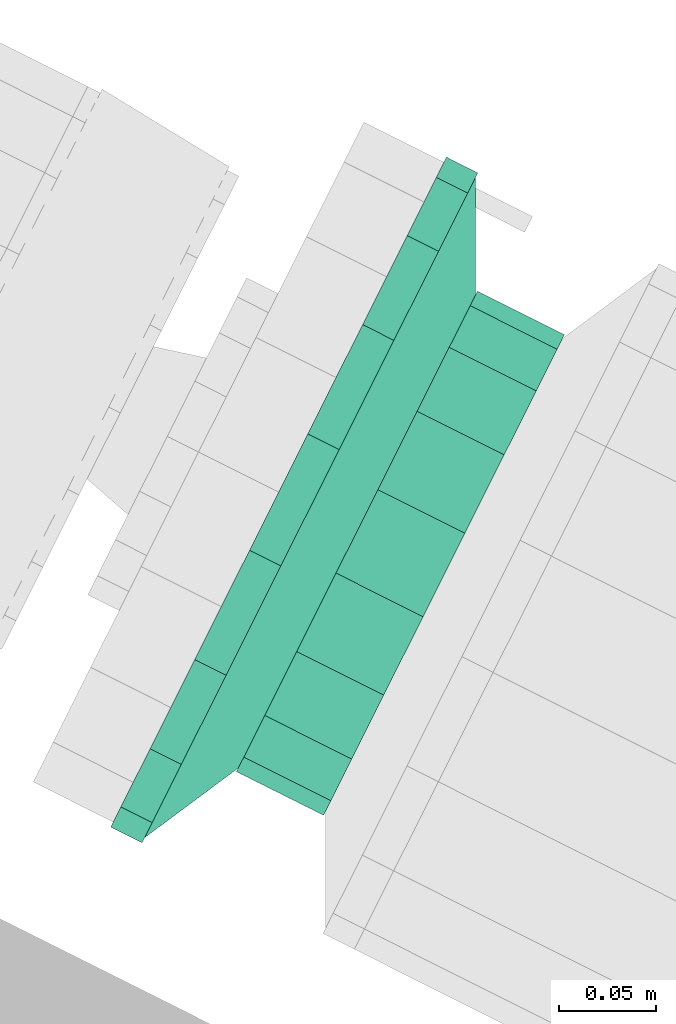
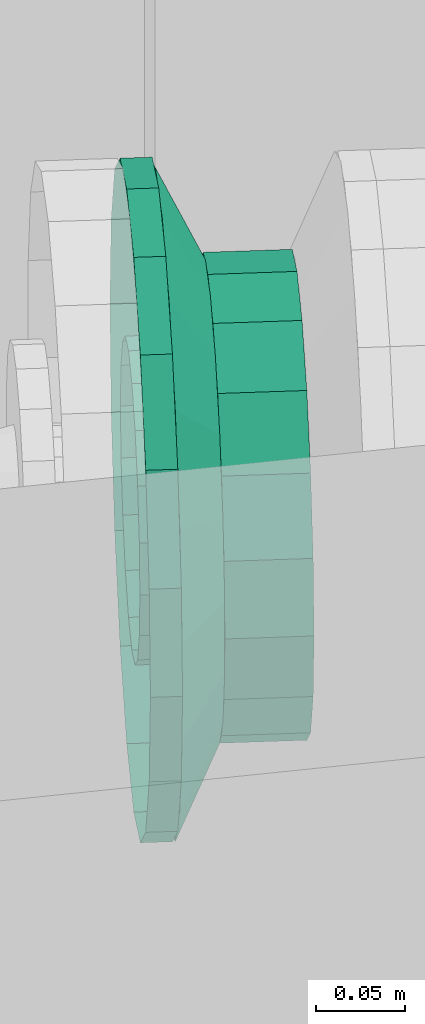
# One storey, part 153 of 206: 1 flow fitting, 1 flow segment.
"""IFC2X3 building model written with IfcOpenShell, lengths in metres."""

from ifc_helpers import new_model, si_unit, derived_unit, direction, frame, origin, place, context, subcontext, project, spatial, face_set, surface_model, source, transform, mapped, material, type_object, type_shapes, element, save


model = new_model("IFC2X3")

# Units and contexts
model_context = context("Model", 3, precision=5.2338327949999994e-05, world=origin(), true_north=direction((0.0, 1.0)))
body_context = subcontext(model_context, "Body", "Model", "MODEL_VIEW")
ifc_project = project(units=[si_unit("LENGTHUNIT", "METRE"), si_unit("AREAUNIT", "SQUARE_METRE"), si_unit("VOLUMEUNIT", "CUBIC_METRE"), si_unit("MASSUNIT", "GRAM", prefix="KILO"), si_unit("PLANEANGLEUNIT", "RADIAN"), derived_unit("THERMALTRANSMITTANCEUNIT", [(si_unit("MASSUNIT", "GRAM", prefix="KILO"), 1), (si_unit("THERMODYNAMICTEMPERATUREUNIT", "KELVIN"), -1), (si_unit("TIMEUNIT", "SECOND"), -3)])], contexts=[model_context])

# Site, building, storey
site_placement = place(None, frame((0.0, 0.0, 0.0), z_axis=(0.0, 0.0, 1.0), x_axis=(0.8939966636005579, -0.4480736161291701, 0.0)))
site = spatial("IfcSite", under=ifc_project, at=site_placement, Name="Default", CompositionType="ELEMENT")
building_placement = place(site_placement, origin())
building = spatial("IfcBuilding", under=site, at=building_placement, CompositionType="ELEMENT")
storey_placement = place(building_placement, origin())
storey = spatial("IfcBuildingStorey", under=building, at=storey_placement, Name="Erdgeschoss", CompositionType="ELEMENT", Elevation=0.0)

# Flow fitting
ifc_material = material(Name="IfcSurfaceStyle #1741")
distribution_element_type_1 = type_object("IfcDistributionElementType", Name="Flansch 336070:Flansch 336070", material=ifc_material)
shared_shape_1 = source(origin(), body_context, "Body", "SurfaceModel", [
    surface_model("IfcFaceBasedSurfaceModel", [(29.100127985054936, 10.310708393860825, 2.314000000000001), (29.100127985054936, 10.316286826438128, 2.282363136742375), (29.118127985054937, 10.316286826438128, 2.282363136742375), (29.118127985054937, 10.310708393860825, 2.314000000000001), (29.100127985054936, 10.332349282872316, 2.254542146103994), (29.118127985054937, 10.332349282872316, 2.254542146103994), (29.100127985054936, 10.356958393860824, 2.2338926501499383), (29.118127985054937, 10.356958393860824, 2.2338926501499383), (29.100127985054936, 10.387145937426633, 2.222905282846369), (29.118127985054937, 10.387145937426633, 2.222905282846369), (29.100127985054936, 10.41927085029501, 2.2229052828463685), (29.118127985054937, 10.41927085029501, 2.2229052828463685), (29.100127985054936, 10.449458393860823, 2.233892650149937), (29.118127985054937, 10.449458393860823, 2.233892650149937), (29.100127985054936, 10.474067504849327, 2.2545421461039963), (29.118127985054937, 10.474067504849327, 2.2545421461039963), (29.100127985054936, 10.49012996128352, 2.2823631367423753), (29.118127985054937, 10.49012996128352, 2.2823631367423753), (29.100127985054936, 10.495708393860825, 2.313999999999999), (29.118127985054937, 10.495708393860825, 2.313999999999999), (29.100127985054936, 10.490129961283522, 2.3456368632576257), (29.118127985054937, 10.490129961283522, 2.3456368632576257), (29.100127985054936, 10.474067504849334, 2.3734578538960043), (29.118127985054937, 10.474067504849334, 2.3734578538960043), (29.100127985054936, 10.449458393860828, 2.3941073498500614), (29.118127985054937, 10.449458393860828, 2.3941073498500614), (29.100127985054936, 10.419270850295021, 2.4050947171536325), (29.118127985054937, 10.419270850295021, 2.4050947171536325), (29.100127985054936, 10.38714593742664, 2.4050947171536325), (29.118127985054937, 10.38714593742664, 2.4050947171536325), (29.100127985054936, 10.35695839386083, 2.394107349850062), (29.118127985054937, 10.35695839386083, 2.394107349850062), (29.100127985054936, 10.332349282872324, 2.373457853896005), (29.118127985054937, 10.332349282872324, 2.373457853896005), (29.100127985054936, 10.316286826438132, 2.3456368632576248), (29.118127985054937, 10.316286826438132, 2.3456368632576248), (29.118127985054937, 10.403208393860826, 2.314), (29.118127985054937, 10.403208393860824, 2.2689999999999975), (29.118127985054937, 10.418599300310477, 2.2717138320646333), (29.14512798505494, 10.416222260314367, 2.278244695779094), (29.14512798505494, 10.403208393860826, 2.275949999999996), (29.118127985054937, 10.432133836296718, 2.279528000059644), (29.14512798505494, 10.427666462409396, 2.284852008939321), (29.118127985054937, 10.442179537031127, 2.2915), (29.14512798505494, 10.436160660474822, 2.294975), (29.118127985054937, 10.44752474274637, 2.3061858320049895), (29.14512798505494, 10.44068032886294, 2.307392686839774), (29.118127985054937, 10.447524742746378, 2.321814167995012), (29.14512798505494, 10.440680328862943, 2.320607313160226), (29.118127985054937, 10.442179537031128, 2.336500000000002), (29.14512798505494, 10.436160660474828, 2.3330249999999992), (29.118127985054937, 10.432133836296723, 2.3484719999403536), (29.14512798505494, 10.427666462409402, 2.343147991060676), (29.118127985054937, 10.418599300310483, 2.356286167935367), (29.14512798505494, 10.416222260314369, 2.3497553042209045), (29.118127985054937, 10.403208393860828, 2.359), (29.14512798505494, 10.403208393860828, 2.352050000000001), (29.118127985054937, 10.387817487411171, 2.356286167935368), (29.14512798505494, 10.390194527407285, 2.3497553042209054), (29.118127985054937, 10.374282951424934, 2.3484719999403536), (29.14512798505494, 10.378750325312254, 2.343147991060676), (29.118127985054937, 10.364237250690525, 2.336500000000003), (29.14512798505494, 10.370256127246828, 2.333025), (29.118127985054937, 10.358892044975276, 2.3218141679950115), (29.14512798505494, 10.365736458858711, 2.3206073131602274), (29.118127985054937, 10.358892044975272, 2.306185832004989), (29.14512798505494, 10.365736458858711, 2.307392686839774), (29.118127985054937, 10.364237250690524, 2.291500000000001), (29.14512798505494, 10.370256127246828, 2.294975), (29.118127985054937, 10.374282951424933, 2.2795280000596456), (29.14512798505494, 10.378750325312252, 2.2848520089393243), (29.118127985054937, 10.387817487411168, 2.2717138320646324), (29.14512798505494, 10.390194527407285, 2.278244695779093), (29.100127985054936, 10.210708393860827, 2.3140000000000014), (29.100127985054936, 10.222317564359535, 2.248161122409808), (29.118127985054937, 10.222317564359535, 2.248161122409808), (29.118127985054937, 10.210708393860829, 2.314), (29.100127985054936, 10.25574483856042, 2.1902633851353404), (29.118127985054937, 10.25574483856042, 2.1902633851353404), (29.100127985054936, 10.306958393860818, 2.147290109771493), (29.118127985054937, 10.306958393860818, 2.147290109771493), (29.100127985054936, 10.369781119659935, 2.124424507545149), (29.118127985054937, 10.369781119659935, 2.124424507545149), (29.100127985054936, 10.436635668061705, 2.1244245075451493), (29.118127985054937, 10.436635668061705, 2.1244245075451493), (29.100127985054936, 10.49945839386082, 2.147290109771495), (29.118127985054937, 10.49945839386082, 2.147290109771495), (29.100127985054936, 10.550671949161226, 2.1902633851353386), (29.118127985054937, 10.550671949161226, 2.1902633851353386), (29.100127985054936, 10.58409922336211, 2.2481611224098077), (29.118127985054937, 10.58409922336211, 2.2481611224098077), (29.100127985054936, 10.595708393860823, 2.314), (29.118127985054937, 10.595708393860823, 2.314000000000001), (29.100127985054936, 10.584099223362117, 2.3798388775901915), (29.118127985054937, 10.584099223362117, 2.3798388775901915), (29.100127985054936, 10.55067194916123, 2.4377366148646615), (29.118127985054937, 10.55067194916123, 2.4377366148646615), (29.100127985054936, 10.499458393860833, 2.480709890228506), (29.118127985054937, 10.499458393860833, 2.480709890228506), (29.100127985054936, 10.436635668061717, 2.5035754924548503), (29.118127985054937, 10.436635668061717, 2.5035754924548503), (29.100127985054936, 10.369781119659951, 2.503575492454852), (29.118127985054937, 10.369781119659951, 2.503575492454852), (29.100127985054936, 10.30695839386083, 2.4807098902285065), (29.118127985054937, 10.30695839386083, 2.4807098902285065), (29.100127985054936, 10.255744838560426, 2.4377366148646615), (29.118127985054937, 10.255744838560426, 2.4377366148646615), (29.100127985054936, 10.222317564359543, 2.379838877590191), (29.118127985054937, 10.222317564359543, 2.379838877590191), (29.11812798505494, 10.403208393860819, 2.1214999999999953), (29.11812798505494, 10.46904727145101, 2.133109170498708), (29.145127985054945, 10.45042427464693, 2.1842754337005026), (29.145127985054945, 10.403208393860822, 2.175949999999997), (29.11812798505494, 10.526945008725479, 2.1665364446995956), (29.145127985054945, 10.49194522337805, 2.2082475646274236), (29.11812798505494, 10.569918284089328, 2.217749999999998), (29.145127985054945, 10.522763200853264, 2.244974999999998), (29.11812798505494, 10.592783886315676, 2.280572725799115), (29.145127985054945, 10.539161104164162, 2.2900278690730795), (29.11812798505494, 10.592783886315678, 2.3474272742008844), (29.145127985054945, 10.539161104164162, 2.3379721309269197), (29.11812798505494, 10.569918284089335, 2.4102499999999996), (29.145127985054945, 10.522763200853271, 2.383025), (29.11812798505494, 10.526945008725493, 2.4614635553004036), (29.145127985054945, 10.491945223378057, 2.419752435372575), (29.11812798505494, 10.469047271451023, 2.4948908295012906), (29.145127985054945, 10.450424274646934, 2.4437245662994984), (29.11812798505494, 10.403208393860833, 2.5065000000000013), (29.145127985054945, 10.403208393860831, 2.452050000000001), (29.11812798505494, 10.337369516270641, 2.49489082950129), (29.145127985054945, 10.35599251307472, 2.443724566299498), (29.11812798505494, 10.279471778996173, 2.4614635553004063), (29.145127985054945, 10.314471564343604, 2.4197524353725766), (29.11812798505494, 10.236498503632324, 2.4102500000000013), (29.145127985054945, 10.283653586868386, 2.3830250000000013), (29.11812798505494, 10.213632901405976, 2.347427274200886), (29.145127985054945, 10.26725568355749, 2.337972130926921), (29.11812798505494, 10.213632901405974, 2.2805727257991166), (29.145127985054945, 10.26725568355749, 2.290027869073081), (29.11812798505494, 10.236498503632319, 2.217749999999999), (29.145127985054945, 10.283653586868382, 2.244974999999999), (29.11812798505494, 10.279471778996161, 2.1665364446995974), (29.145127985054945, 10.314471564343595, 2.2082475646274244), (29.11812798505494, 10.337369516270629, 2.1331091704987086), (29.145127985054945, 10.35599251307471, 2.184275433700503)], [face_set([[[0, 1, 2, 3]], [[1, 4, 5, 2]], [[4, 6, 7, 5]], [[6, 8, 9, 7]], [[8, 10, 11, 9]], [[10, 12, 13, 11]], [[12, 14, 15, 13]], [[14, 16, 17, 15]], [[16, 18, 19, 17]], [[18, 20, 21, 19]], [[20, 22, 23, 21]], [[22, 24, 25, 23]], [[24, 26, 27, 25]], [[26, 28, 29, 27]], [[28, 30, 31, 29]], [[30, 32, 33, 31]], [[32, 34, 35, 33]], [[34, 0, 3, 35]], [[36, 35, 3]], [[36, 33, 35]], [[36, 31, 33]], [[36, 29, 31]], [[36, 27, 29]], [[36, 25, 27]], [[36, 23, 25]], [[36, 21, 23]], [[36, 19, 21]], [[36, 17, 19]], [[36, 15, 17]], [[36, 13, 15]], [[36, 11, 13]], [[36, 9, 11]], [[36, 7, 9]], [[36, 5, 7]], [[36, 2, 5]], [[36, 3, 2]], [[37, 38, 39, 40]], [[38, 41, 42, 39]], [[41, 43, 44, 42]], [[43, 45, 46, 44]], [[45, 47, 48, 46]], [[47, 49, 50, 48]], [[49, 51, 52, 50]], [[51, 53, 54, 52]], [[53, 55, 56, 54]], [[55, 57, 58, 56]], [[57, 59, 60, 58]], [[59, 61, 62, 60]], [[61, 63, 64, 62]], [[63, 65, 66, 64]], [[65, 67, 68, 66]], [[67, 69, 70, 68]], [[69, 71, 72, 70]], [[71, 37, 40, 72]], [[73, 74, 75, 76]], [[74, 77, 78, 75]], [[77, 79, 80, 78]], [[79, 81, 82, 80]], [[81, 83, 84, 82]], [[83, 85, 86, 84]], [[85, 87, 88, 86]], [[87, 89, 90, 88]], [[89, 91, 92, 90]], [[91, 93, 94, 92]], [[93, 95, 96, 94]], [[95, 97, 98, 96]], [[97, 99, 100, 98]], [[99, 101, 102, 100]], [[101, 103, 104, 102]], [[103, 105, 106, 104]], [[105, 107, 108, 106]], [[107, 73, 76, 108]], [[109, 110, 111, 112]], [[110, 113, 114, 111]], [[113, 115, 116, 114]], [[115, 117, 118, 116]], [[117, 119, 120, 118]], [[119, 121, 122, 120]], [[121, 123, 124, 122]], [[123, 125, 126, 124]], [[125, 127, 128, 126]], [[127, 129, 130, 128]], [[129, 131, 132, 130]], [[131, 133, 134, 132]], [[133, 135, 136, 134]], [[135, 137, 138, 136]], [[137, 139, 140, 138]], [[139, 141, 142, 140]], [[141, 143, 144, 142]], [[143, 109, 112, 144]]])]),
])
type_shapes(distribution_element_type_1, [shared_shape_1])
flow_fitting_placement = place(storey_placement, origin())
element("IfcFlowFitting", 1, at=flow_fitting_placement, inside=storey, type_object=distribution_element_type_1, material=ifc_material, Name="Flansch", ObjectType="Flansch", context=body_context, shape_type="MappedRepresentation", body=[
    mapped(shared_shape_1, transform((0.0, 0.0, 0.0), scale=1.0)),
])

# Flow segment
distribution_element_type_2 = type_object("IfcDistributionElementType", Name="Stahlrohr nach DIN 2448 336093:Stahlrohr nach DIN 2448 336093", material=ifc_material)
shared_shape_2 = source(origin(), body_context, "Body", "SurfaceModel", [
    surface_model("IfcFaceBasedSurfaceModel", [(29.195127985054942, 10.365158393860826, 2.3139999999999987), (29.195127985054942, 10.367453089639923, 2.327013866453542), (29.145127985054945, 10.367453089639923, 2.327013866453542), (29.14512798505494, 10.365158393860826, 2.314), (29.195127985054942, 10.374060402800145, 2.33845806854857), (29.14512798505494, 10.374060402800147, 2.338458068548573), (29.195127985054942, 10.384183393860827, 2.346952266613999), (29.14512798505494, 10.384183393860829, 2.3469522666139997), (29.195127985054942, 10.3966010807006, 2.351471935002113), (29.14512798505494, 10.3966010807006, 2.3514719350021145), (29.195127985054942, 10.409815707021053, 2.351471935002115), (29.14512798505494, 10.409815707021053, 2.351471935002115), (29.195127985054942, 10.422233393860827, 2.3469522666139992), (29.14512798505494, 10.422233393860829, 2.346952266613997), (29.195127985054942, 10.432356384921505, 2.3384580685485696), (29.14512798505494, 10.432356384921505, 2.338458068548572), (29.195127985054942, 10.43896369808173, 2.327013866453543), (29.14512798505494, 10.43896369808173, 2.327013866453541), (29.195127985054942, 10.441258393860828, 2.314000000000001), (29.14512798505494, 10.441258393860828, 2.313999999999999), (29.195127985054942, 10.43896369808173, 2.300986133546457), (29.14512798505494, 10.43896369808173, 2.3009861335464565), (29.195127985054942, 10.432356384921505, 2.2895419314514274), (29.14512798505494, 10.432356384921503, 2.2895419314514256), (29.195127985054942, 10.422233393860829, 2.2810477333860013), (29.14512798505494, 10.422233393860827, 2.2810477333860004), (29.195127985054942, 10.409815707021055, 2.2765280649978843), (29.14512798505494, 10.40981570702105, 2.2765280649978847), (29.195127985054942, 10.3966010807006, 2.2765280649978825), (29.14512798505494, 10.396601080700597, 2.2765280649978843), (29.195127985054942, 10.384183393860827, 2.2810477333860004), (29.14512798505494, 10.384183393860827, 2.2810477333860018), (29.195127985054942, 10.374060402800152, 2.2895419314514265), (29.14512798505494, 10.374060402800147, 2.2895419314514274), (29.195127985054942, 10.367453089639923, 2.300986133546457), (29.14512798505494, 10.367453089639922, 2.3009861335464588), (29.195127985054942, 10.265158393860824, 2.313999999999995), (29.195127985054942, 10.273483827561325, 2.3612158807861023), (29.14512798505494, 10.27348382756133, 2.361215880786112), (29.14512798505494, 10.26515839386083, 2.3140000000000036), (29.195127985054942, 10.29745595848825, 2.4027368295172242), (29.14512798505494, 10.297455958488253, 2.40273682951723), (29.195127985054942, 10.334183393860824, 2.4335548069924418), (29.14512798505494, 10.33418339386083, 2.4335548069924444), (29.195127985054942, 10.379236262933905, 2.449952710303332), (29.14512798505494, 10.379236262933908, 2.4499527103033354), (29.195127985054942, 10.427180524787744, 2.4499527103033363), (29.14512798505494, 10.42718052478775, 2.4499527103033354), (29.195127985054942, 10.472233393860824, 2.4335548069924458), (29.14512798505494, 10.47223339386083, 2.43355480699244), (29.195127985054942, 10.5089608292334, 2.4027368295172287), (29.14512798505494, 10.508960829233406, 2.4027368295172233), (29.195127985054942, 10.532932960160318, 2.361215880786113), (29.14512798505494, 10.532932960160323, 2.3612158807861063), (29.195127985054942, 10.541258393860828, 2.3140000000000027), (29.14512798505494, 10.541258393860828, 2.313999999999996), (29.195127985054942, 10.532932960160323, 2.266784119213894), (29.14512798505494, 10.532932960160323, 2.2667841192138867), (29.195127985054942, 10.508960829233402, 2.2252631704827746), (29.14512798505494, 10.5089608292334, 2.2252631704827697), (29.195127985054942, 10.472233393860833, 2.194445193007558), (29.14512798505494, 10.47223339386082, 2.1944451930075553), (29.195127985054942, 10.427180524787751, 2.1780472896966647), (29.14512798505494, 10.427180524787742, 2.178047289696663), (29.195127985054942, 10.379236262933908, 2.1780472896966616), (29.14512798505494, 10.379236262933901, 2.1780472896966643), (29.195127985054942, 10.33418339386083, 2.194445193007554), (29.14512798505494, 10.334183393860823, 2.194445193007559), (29.195127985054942, 10.297455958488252, 2.225263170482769), (29.14512798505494, 10.297455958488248, 2.225263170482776), (29.195127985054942, 10.273483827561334, 2.266784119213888), (29.14512798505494, 10.27348382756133, 2.266784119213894)], [face_set([[[0, 1, 2, 3]], [[1, 4, 5, 2]], [[4, 6, 7, 5]], [[6, 8, 9, 7]], [[8, 10, 11, 9]], [[10, 12, 13, 11]], [[12, 14, 15, 13]], [[14, 16, 17, 15]], [[16, 18, 19, 17]], [[18, 20, 21, 19]], [[20, 22, 23, 21]], [[22, 24, 25, 23]], [[24, 26, 27, 25]], [[26, 28, 29, 27]], [[28, 30, 31, 29]], [[30, 32, 33, 31]], [[32, 34, 35, 33]], [[34, 0, 3, 35]], [[36, 37, 38, 39]], [[37, 40, 41, 38]], [[40, 42, 43, 41]], [[42, 44, 45, 43]], [[44, 46, 47, 45]], [[46, 48, 49, 47]], [[48, 50, 51, 49]], [[50, 52, 53, 51]], [[52, 54, 55, 53]], [[54, 56, 57, 55]], [[56, 58, 59, 57]], [[58, 60, 61, 59]], [[60, 62, 63, 61]], [[62, 64, 65, 63]], [[64, 66, 67, 65]], [[66, 68, 69, 67]], [[68, 70, 71, 69]], [[70, 36, 39, 71]]])]),
])
type_shapes(distribution_element_type_2, [shared_shape_2])
flow_segment_placement = place(storey_placement, origin())
element("IfcFlowSegment", 2, at=flow_segment_placement, inside=storey, type_object=distribution_element_type_2, material=ifc_material, Name="Stahlrohr nach DIN 2448", ObjectType="Stahlrohr nach DIN 2448", context=body_context, shape_type="MappedRepresentation", body=[
    mapped(shared_shape_2, transform((0.0, 0.0, 0.0), scale=1.0)),
])

save(model, "model.ifc")
